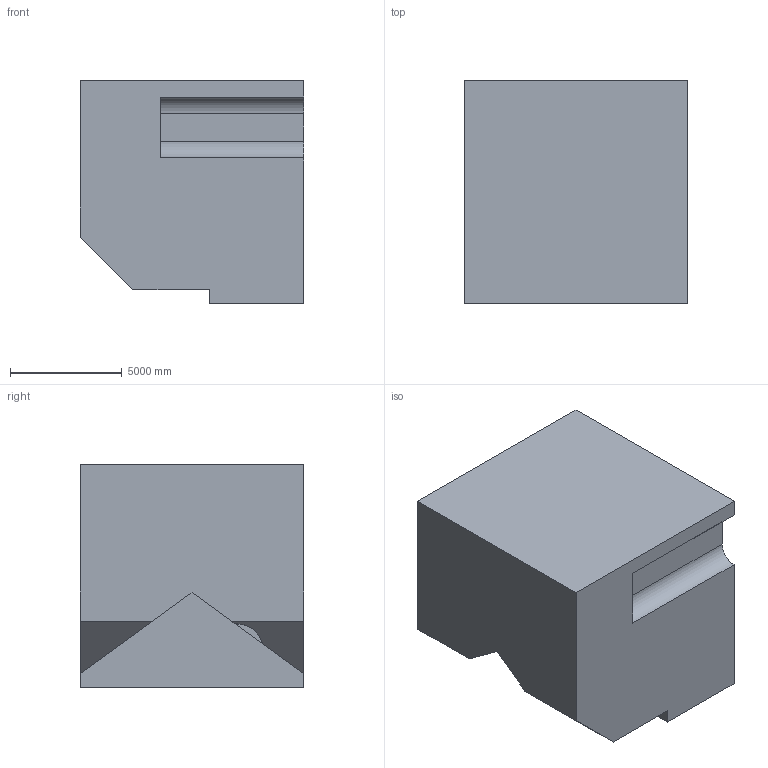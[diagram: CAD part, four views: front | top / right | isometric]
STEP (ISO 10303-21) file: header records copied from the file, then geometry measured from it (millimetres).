
FILE_DESCRIPTION (( 'STEP AP203' ), '1' );
FILE_NAME ('131.STEP', '2022-09-06T13:20:58', ( 'user' ), ( '' ), 'SwSTEP 2.0', 'SolidWorks 2021', '' );
FILE_SCHEMA (( 'CONFIG_CONTROL_DESIGN' ));
Length unit declared in the file: centimetre
Products named in the file (1): 131
Bounding box: 10000 x 10000 x 10000 mm (x, y, z)
Volume: 840486889035.8 mm3; surface area: 600338828.8 mm2
Topology: 1 solids, 1 shells, 18 faces, 48 edges, 32 vertices
Faces by surface type: plane 14, cylinder 4
Entity records: 635 total; most frequent: CARTESIAN_POINT 105, ORIENTED_EDGE 96, DIRECTION 90, EDGE_CURVE 48, VECTOR 40, LINE 40, VERTEX_POINT 32, AXIS2_PLACEMENT_3D 25
